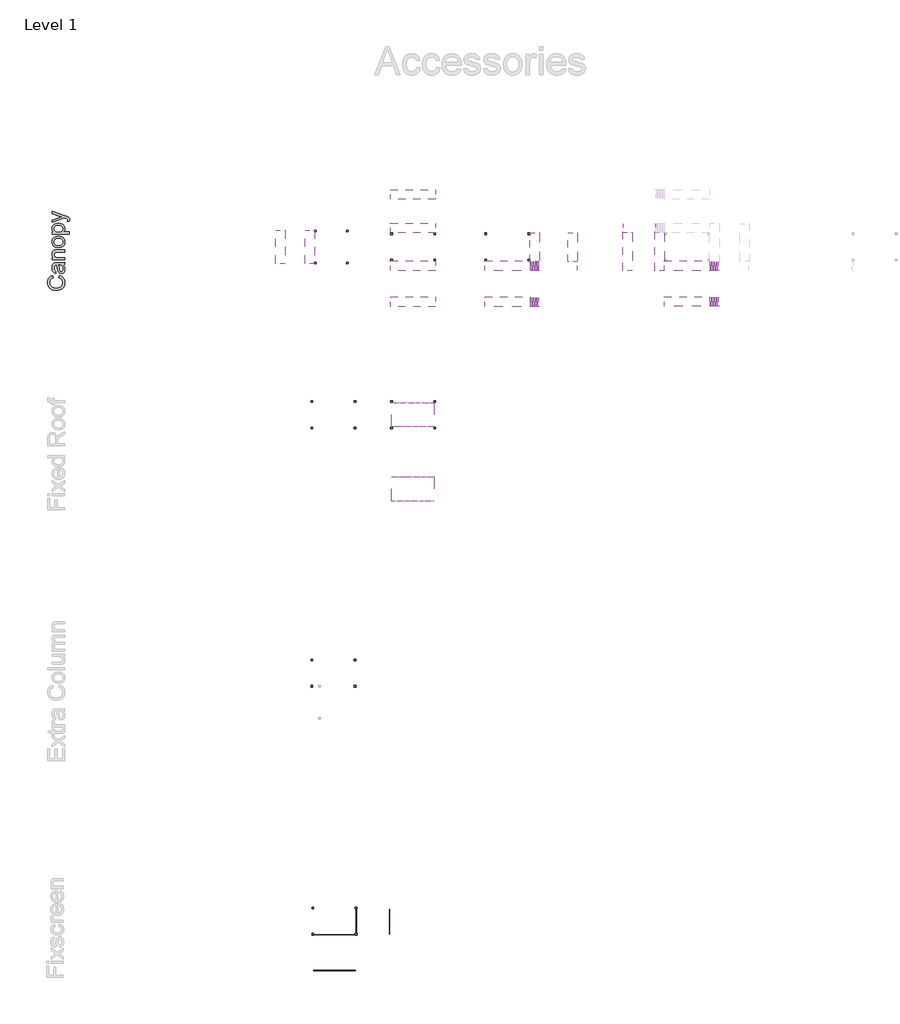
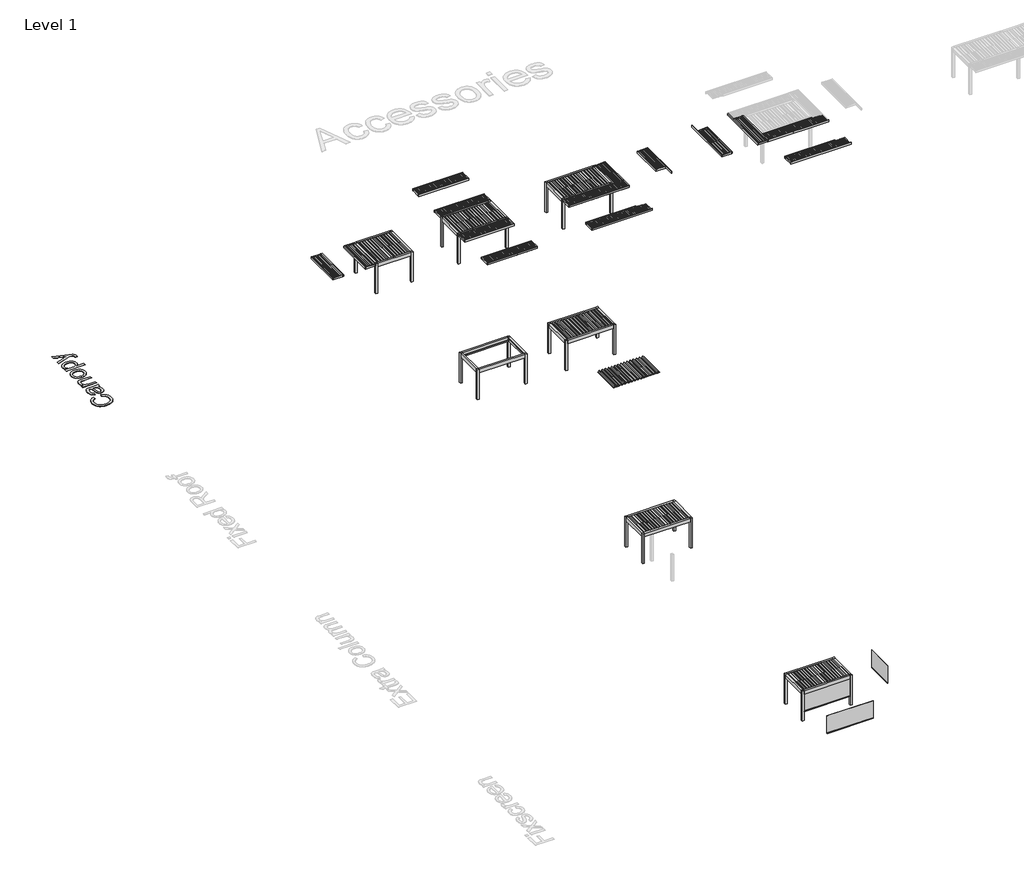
# One storey, part 79 of 80: 28 proxies.
"""IFC4 building model written with IfcOpenShell, lengths in millimetres."""

from ifc_helpers import new_model, si_unit, origin, origin_with_axes, place, context, project, spatial, polyline, outline, extrude, transform, mapped, element, save
from components import generic_models_bdaf10d6, generic_models_fbfd15e4, generic_models_e3f605ce, generic_models_1e1d77a5, generic_models_a6b09960, generic_models_b6bb1ce4, generic_models_1129b3c2, generic_models_30834988, generic_models_899c330c, generic_models_e86c0f30, generic_models_e44263f4, generic_models_869bd144, generic_models_72b72d81

model = new_model("IFC4")

# Units and contexts
model_context = context("Model", 3, world=origin())
ifc_project = project(units=[si_unit("LENGTHUNIT", "METRE", prefix="MILLI")], contexts=[model_context])

# Site, building, storey
site = spatial("IfcSite", under=ifc_project)
building = spatial("IfcBuilding", under=site)
storey = spatial("IfcBuildingStorey", under=building, Name="Level 1", Elevation=0.0)

# Proxies
placement = place(None, origin())
generic_models_shape = generic_models_bdaf10d6(model_context)
element("IfcBuildingElementProxy", 1, Name="Renson_Amani_Fixed_Roof : Renson_Amani_Fixed_Roof", ObjectType="Renson_Amani_Fixed_Roof : Renson_Amani_Fixed_Roof", at=placement, inside=storey, context=model_context, shape_type="MappedRepresentation", body=[
    mapped(generic_models_shape, transform((390075.5749426, 45149.3560109, 0.0), x_axis=(1.0, 0.0, 0.0), y_axis=(0.0, 1.0, 0.0), z_axis=(0.0, 0.0, 1.0))),
])
element("IfcBuildingElementProxy", 2, Name="Renson_Amani_Fixed_Roof : Renson_Amani_Fixed_Roof", ObjectType="Renson_Amani_Fixed_Roof : Renson_Amani_Fixed_Roof", at=placement, inside=storey, context=model_context, shape_type="MappedRepresentation", body=[
    mapped(generic_models_shape, transform((390083.165057, 51749.3560109, 0.0), x_axis=(1.0, 0.0, 0.0), y_axis=(0.0, 1.0, 0.0), z_axis=(0.0, 0.0, 1.0))),
])
generic_models_2_shape = generic_models_fbfd15e4(model_context)
element("IfcBuildingElementProxy", 3, Name="Renson_Amani_Canopy : Renson_Amani_Canopy", ObjectType="Renson_Amani_Canopy : Renson_Amani_Canopy", at=placement, inside=storey, context=model_context, shape_type="MappedRepresentation", body=[
    mapped(generic_models_2_shape, transform((398383.165057, 66528.5861401, 2535.0), x_axis=(1.0, 0.0, 0.0), y_axis=(0.0, 1.0, 0.0), z_axis=(0.0, 0.0, 1.0))),
])
element("IfcBuildingElementProxy", 4, Name="Renson_Amani_Canopy : Renson_Amani_Canopy", ObjectType="Renson_Amani_Canopy : Renson_Amani_Canopy", at=placement, inside=storey, context=model_context, shape_type="MappedRepresentation", body=[
    mapped(generic_models_2_shape, transform((414390.0966626, 66528.5861401, 2535.0), x_axis=(1.0, 0.0, 0.0), y_axis=(0.0, 1.0, 0.0), z_axis=(0.0, 0.0, 1.0))),
])
element("IfcBuildingElementProxy", 5, Name="Renson_Amani_Canopy : Renson_Amani_Canopy", ObjectType="Renson_Amani_Canopy : Renson_Amani_Canopy", at=placement, inside=storey, context=model_context, shape_type="MappedRepresentation", body=[
    mapped(generic_models_2_shape, transform((398383.165057, 63328.5861401, 2535.0), x_axis=(1.0, 0.0, 0.0), y_axis=(0.0, 1.0, 0.0), z_axis=(0.0, 0.0, 1.0))),
])
element("IfcBuildingElementProxy", 6, Name="Renson_Amani_Canopy : Renson_Amani_Canopy", ObjectType="Renson_Amani_Canopy : Renson_Amani_Canopy", at=placement, inside=storey, context=model_context, shape_type="MappedRepresentation", body=[
    mapped(generic_models_2_shape, transform((414390.0966626, 63363.5861401, 2535.0), x_axis=(1.0, 0.0, 0.0), y_axis=(0.0, 1.0, 0.0), z_axis=(0.0, 0.0, 1.0))),
])
generic_models_3_shape = generic_models_e3f605ce(model_context)
element("IfcBuildingElementProxy", 7, Name="Renson_Amani_Canopy : Renson_Amani_Canopy", ObjectType="Renson_Amani_Canopy : Renson_Amani_Canopy", at=placement, inside=storey, context=model_context, shape_type="MappedRepresentation", body=[
    mapped(generic_models_3_shape, transform((402383.165057, 66458.5861401, 2535.0), x_axis=(0.0, 1.0, 0.0), y_axis=(-1.0, 0.0, 0.0), z_axis=(0.0, 0.0, 1.0))),
])
element("IfcBuildingElementProxy", 8, Name="Renson_Amani_Canopy : Renson_Amani_Canopy", ObjectType="Renson_Amani_Canopy : Renson_Amani_Canopy", at=placement, inside=storey, context=model_context, shape_type="MappedRepresentation", body=[
    mapped(generic_models_3_shape, transform((405783.165057, 66458.5861401, 2535.0), x_axis=(0.0, 1.0, 0.0), y_axis=(-1.0, 0.0, 0.0), z_axis=(0.0, 0.0, 1.0))),
])
generic_models_4_shape = generic_models_1e1d77a5(model_context)
element("IfcBuildingElementProxy", 9, Name="Renson_Amani_Canopy : Renson_Amani_Canopy", ObjectType="Renson_Amani_Canopy : Renson_Amani_Canopy", at=placement, inside=storey, context=model_context, shape_type="MappedRepresentation", body=[
    mapped(generic_models_4_shape, transform((389983.165057, 66528.5861401, 2535.0), x_axis=(1.0, 0.0, 0.0), y_axis=(0.0, 1.0, 0.0), z_axis=(0.0, 0.0, 1.0))),
])
element("IfcBuildingElementProxy", 10, Name="Renson_Amani_Canopy : Renson_Amani_Canopy", ObjectType="Renson_Amani_Canopy : Renson_Amani_Canopy", at=placement, inside=storey, context=model_context, shape_type="MappedRepresentation", body=[
    mapped(generic_models_4_shape, transform((389983.165057, 63328.5861401, 2535.0), x_axis=(1.0, 0.0, 0.0), y_axis=(0.0, 1.0, 0.0), z_axis=(0.0, 0.0, 1.0))),
])
generic_models_5_shape = generic_models_a6b09960(model_context)
element("IfcBuildingElementProxy", 11, Name="Renson_Amani_Canopy : Renson_Amani_Canopy", ObjectType="Renson_Amani_Canopy : Renson_Amani_Canopy", at=placement, inside=storey, context=model_context, shape_type="MappedRepresentation", body=[
    mapped(generic_models_5_shape, transform((389983.165057, 69028.5861401, 2535.0), x_axis=(1.0, 0.0, 0.0), y_axis=(0.0, 1.0, 0.0), z_axis=(0.0, 0.0, 1.0))),
])
element("IfcBuildingElementProxy", 12, Name="Renson_Amani_Canopy : Renson_Amani_Canopy", ObjectType="Renson_Amani_Canopy : Renson_Amani_Canopy", at=placement, inside=storey, context=model_context, shape_type="MappedRepresentation", body=[
    mapped(generic_models_5_shape, transform((389983.165057, 72028.5861401, 2535.0), x_axis=(1.0, 0.0, 0.0), y_axis=(0.0, 1.0, 0.0), z_axis=(0.0, 0.0, 1.0))),
])
generic_models_6_shape = generic_models_b6bb1ce4(model_context)
element("IfcBuildingElementProxy", 13, Name="Renson_Amani_Canopy : Renson_Amani_Canopy", ObjectType="Renson_Amani_Canopy : Renson_Amani_Canopy", at=placement, inside=storey, context=model_context, shape_type="MappedRepresentation", body=[
    mapped(generic_models_6_shape, transform((383203.165057, 66278.5861401, 2535.0), x_axis=(0.0, 1.0, 0.0), y_axis=(-1.0, 0.0, 0.0), z_axis=(0.0, 0.0, 1.0))),
])
element("IfcBuildingElementProxy", 14, Name="Renson_Amani_Canopy : Renson_Amani_Canopy", ObjectType="Renson_Amani_Canopy : Renson_Amani_Canopy", at=placement, inside=storey, context=model_context, shape_type="MappedRepresentation", body=[
    mapped(generic_models_6_shape, transform((380603.165057, 66278.5861401, 2535.0), x_axis=(0.0, 1.0, 0.0), y_axis=(-1.0, 0.0, 0.0), z_axis=(0.0, 0.0, 1.0))),
])
generic_models_7_shape = generic_models_1129b3c2(model_context)
element("IfcBuildingElementProxy", 15, Name="Renson_Amani_Canopy : Renson_Amani_Canopy", ObjectType="Renson_Amani_Canopy : Renson_Amani_Canopy", at=placement, inside=storey, context=model_context, shape_type="MappedRepresentation", body=[
    mapped(generic_models_7_shape, transform((414390.0966626, 69098.5861401, 2535.0), x_axis=(0.0, -1.0, 0.0), y_axis=(1.0, 0.0, 0.0), z_axis=(0.0, 0.0, 1.0))),
])
element("IfcBuildingElementProxy", 16, Name="Renson_Amani_Canopy : Renson_Amani_Canopy", ObjectType="Renson_Amani_Canopy : Renson_Amani_Canopy", at=placement, inside=storey, context=model_context, shape_type="MappedRepresentation", body=[
    mapped(generic_models_7_shape, transform((411510.0966626, 69098.5861401, 2535.0), x_axis=(0.0, -1.0, 0.0), y_axis=(1.0, 0.0, 0.0), z_axis=(0.0, 0.0, 1.0))),
])
generic_models_8_shape = generic_models_30834988(model_context)
element("IfcBuildingElementProxy", 17, Name="Renson_Amani_Fixscreen : Renson_Amani_Fixscreen", ObjectType="Renson_Amani_Fixscreen : Renson_Amani_Fixscreen", at=placement, inside=storey, context=model_context, shape_type="MappedRepresentation", body=[
    mapped(generic_models_8_shape, transform((386940.5749426, 7765.0525873, 0.0), x_axis=(0.0, 1.0, 0.0), y_axis=(-1.0, 0.0, 0.0), z_axis=(0.0, 0.0, 1.0))),
])
element("IfcBuildingElementProxy", 18, Name="Renson_Amani_Fixscreen : Renson_Amani_Fixscreen", ObjectType="Renson_Amani_Fixscreen : Renson_Amani_Fixscreen", at=placement, inside=storey, context=model_context, shape_type="MappedRepresentation", body=[
    mapped(generic_models_8_shape, transform((389885.5749426, 7695.0525873, 0.0), x_axis=(0.0, 1.0, 0.0), y_axis=(-1.0, 0.0, 0.0), z_axis=(0.0, 0.0, 1.0))),
])
generic_models_9_shape = generic_models_899c330c(model_context)
element("IfcBuildingElementProxy", 19, Name="Renson_Amani_Fixscreen : Renson_Amani_Fixscreen", ObjectType="Renson_Amani_Fixscreen : Renson_Amani_Fixscreen", at=placement, inside=storey, context=model_context, shape_type="MappedRepresentation", body=[
    mapped(generic_models_9_shape, transform((384975.5749426, 6550.0525873, 0.0), x_axis=(1.0, 0.0, 0.0), y_axis=(0.0, 1.0, 0.0), z_axis=(0.0, 0.0, 1.0))),
])
generic_models_10_shape = generic_models_e86c0f30(model_context)
element("IfcBuildingElementProxy", 20, Name="Renson_Amani_Fixscreen : Renson_Amani_Fixscreen", ObjectType="Renson_Amani_Fixscreen : Renson_Amani_Fixscreen", at=placement, inside=storey, context=model_context, shape_type="MappedRepresentation", body=[
    mapped(generic_models_10_shape, transform((384990.5749426, 3366.9887613, 0.0), x_axis=(1.0, 0.0, 0.0), y_axis=(0.0, 1.0, 0.0), z_axis=(0.0, 0.0, 1.0))),
])
generic_models_11_shape = generic_models_e44263f4(model_context)
element("IfcBuildingElementProxy", 21, Name="Renson_Amani_Patio_Cover : Renson_Amani_Patio_Cover", ObjectType="Renson_Amani_Patio_Cover : Renson_Amani_Patio_Cover", at=placement, inside=storey, context=model_context, shape_type="MappedRepresentation", body=[
    mapped(generic_models_11_shape, transform((384975.5749426, 7765.0525873, 0.0), x_axis=(1.0, 0.0, 0.0), y_axis=(0.0, 1.0, 0.0), z_axis=(0.0, 0.0, 1.0))),
])
element("IfcBuildingElementProxy", 22, Name="Renson_Amani_Patio_Cover : Renson_Amani_Patio_Cover", ObjectType="Renson_Amani_Patio_Cover : Renson_Amani_Patio_Cover", at=placement, inside=storey, context=model_context, shape_type="MappedRepresentation", body=[
    mapped(generic_models_11_shape, transform((391983.165057, 67778.5861401, 0.0), x_axis=(1.0, 0.0, 0.0), y_axis=(0.0, 1.0, 0.0), z_axis=(0.0, 0.0, 1.0))),
])
element("IfcBuildingElementProxy", 23, Name="Renson_Amani_Patio_Cover : Renson_Amani_Patio_Cover", ObjectType="Renson_Amani_Patio_Cover : Renson_Amani_Patio_Cover", at=placement, inside=storey, context=model_context, shape_type="MappedRepresentation", body=[
    mapped(generic_models_11_shape, transform((400383.165057, 67778.5861401, 0.0), x_axis=(1.0, 0.0, 0.0), y_axis=(0.0, 1.0, 0.0), z_axis=(0.0, 0.0, 1.0))),
])
element("IfcBuildingElementProxy", 24, Name="Renson_Amani_Patio_Cover : Renson_Amani_Patio_Cover", ObjectType="Renson_Amani_Patio_Cover : Renson_Amani_Patio_Cover", at=placement, inside=storey, context=model_context, shape_type="MappedRepresentation", body=[
    mapped(generic_models_11_shape, transform((384883.165057, 29838.5861401, 0.0), x_axis=(1.0, 0.0, 0.0), y_axis=(0.0, 1.0, 0.0), z_axis=(0.0, 0.0, 1.0))),
])
generic_models_12_shape = generic_models_869bd144(model_context)
element("IfcBuildingElementProxy", 25, Name="Renson_Amani_Patio_Cover : Renson_Amani_Patio_Cover", ObjectType="Renson_Amani_Patio_Cover : Renson_Amani_Patio_Cover", at=placement, inside=storey, context=model_context, shape_type="MappedRepresentation", body=[
    mapped(generic_models_12_shape, transform((391983.165057, 52838.5861401, 0.0), x_axis=(1.0, 0.0, 0.0), y_axis=(0.0, 1.0, 0.0), z_axis=(0.0, 0.0, 1.0))),
])
element("IfcBuildingElementProxy", 26, Name="Renson_Amani_Patio_Cover : Renson_Amani_Patio_Cover", ObjectType="Renson_Amani_Patio_Cover : Renson_Amani_Patio_Cover", at=placement, inside=storey, context=model_context, shape_type="MappedRepresentation", body=[
    mapped(generic_models_12_shape, transform((384883.165057, 52838.5861401, 0.0), x_axis=(1.0, 0.0, 0.0), y_axis=(0.0, 1.0, 0.0), z_axis=(0.0, 0.0, 1.0))),
])
generic_models_13_shape = generic_models_72b72d81(model_context)
element("IfcBuildingElementProxy", 27, Name="Renson_Amani_Patio_Cover : Renson_Amani_Patio_Cover", ObjectType="Renson_Amani_Patio_Cover : Renson_Amani_Patio_Cover", at=placement, inside=storey, context=model_context, shape_type="MappedRepresentation", body=[
    mapped(generic_models_13_shape, transform((384703.165057, 67778.5861401, 0.0), x_axis=(1.0, 0.0, 0.0), y_axis=(0.0, 1.0, 0.0), z_axis=(0.0, 0.0, 1.0))),
])
element("IfcBuildingElementProxy", 28, Name="1500mm", ObjectType="1500mm", at=placement, inside=storey, context=model_context, shape_type="SweptSolid", body=[
    extrude(outline(polyline([(360410.2270777, 65043.7823371), (360458.7875011, 65232.1379186), (360519.2034966, 65215.0486503), (360575.9234276, 65194.866874), (360628.9472943, 65171.5925896), (360678.2750965, 65145.2257972), (360723.9068343, 65115.7664968), (360765.8425076, 65083.2146884), (360804.0821166, 65047.570372), (360838.6256611, 65008.8335475), (360869.2777039, 64967.4238304), (360895.8428077, 64923.7608361), (360918.3209724, 64877.8445646), (360936.7121981, 64829.6750159), (360951.0164847, 64779.2521899), (360961.2338323, 64726.5760867), (360967.3642409, 64671.6467063), (360969.4077104, 64614.4640487), (360967.8614564, 64555.6287962), (360963.2226944, 64499.604392), (360955.4914243, 64446.3908362), (360944.6676462, 64395.9881288), (360930.7513601, 64348.3962698), (360913.742566, 64303.6152591), (360893.6412639, 64261.6450968), (360870.4474537, 64222.4857828), (360844.3220839, 64185.8585317), (360815.4261028, 64151.4845578), (360783.7595104, 64119.3638611), (360749.3223068, 64089.4964416), (360712.1144919, 64061.8822993), (360672.1360657, 64036.5214343), (360629.3870282, 64013.4138465), (360583.8673795, 63992.5595359), (360488.3330238, 63958.0361099), (360389.3497745, 63933.3765199), (360286.9176315, 63918.5807659), (360181.0365947, 63913.6488479), (360067.4300361, 63919.2245594), (359961.3190731, 63935.9516938), (359911.07444, 63948.4970447), (359862.7037058, 63963.8302513), (359816.2068705, 63981.9513136), (359771.5839341, 64002.8602317), (359729.2114009, 64026.3385756), (359689.465775, 64052.1679154), (359652.3470565, 64080.348251), (359617.8552454, 64110.8795826), (359585.9903416, 64143.7619099), (359556.7523452, 64178.9952332), (359530.1412562, 64216.5795524), (359506.1570746, 64256.5148674), (359466.4833007, 64340.8058295), (359438.1448907, 64429.2354641), (359421.1418448, 64521.8037712), (359415.4741628, 64618.5107506), (359417.3078246, 64673.4947385), (359422.8088101, 64726.2426937), (359431.9771192, 64776.7546161), (359444.8127519, 64825.0305057), (359461.3157083, 64871.0703626), (359481.4859883, 64914.8741867), (359505.3235919, 64956.4419781), (359532.8285192, 64995.7737367), (359563.661629, 65032.5360695), (359597.4837799, 65066.3955835), (359634.294972, 65097.3522785), (359674.0952054, 65125.4061547), (359716.8844799, 65150.5572121), (359762.6627957, 65172.8054506), (359811.4301527, 65192.1508702), (359863.1865509, 65208.5934709), (359908.0681543, 65020.2378894), (359833.9974139, 64990.5774035), (359770.7102144, 64954.9388352), (359718.2065559, 64913.3221845), (359676.4864384, 64865.7274514), (359644.6991347, 64811.8787244), (359621.9939178, 64751.5000919), (359608.3707877, 64684.591554), (359603.8297443, 64611.1531107), (359608.8651291, 64526.655215), (359623.9712835, 64449.3770034), (359649.1482076, 64379.3184759), (359684.3959012, 64316.4796326), (359728.1278734, 64261.653719), (359778.757633, 64215.6339807), (359836.28518, 64178.4204176), (359900.7105144, 64150.0130298), (359969.1135729, 64129.0092671), (360038.5742921, 64114.0065795), (360109.0926721, 64105.0049669), (360180.6687127, 64102.0044294), (360270.6158606, 64105.5567899), (360354.6768965, 64116.2138715), (360432.8518204, 64133.9756741), (360505.1406325, 64158.8421977), (360570.1062936, 64191.2158132), (360626.3117647, 64231.4988917), (360673.7570457, 64279.6914331), (360712.4421368, 64335.7934374), (360742.4590083, 64397.0802785), (360763.8996308, 64460.8273305), (360776.7640044, 64527.0345933), (360781.0521289, 64595.7020669), (360775.2120022, 64677.5902998), (360767.9118439, 64716.0770795), (360757.6916222, 64752.9256346), (360744.5513372, 64788.1359653), (360728.4909888, 64821.7080714), (360709.5105771, 64853.641953), (360687.6101021, 64883.9376102), (360662.835549, 64912.2271608), (360635.232903, 64938.1427229), (360604.8021642, 64961.6842965), (360571.5433326, 64982.8518816), (360535.4564082, 65001.6454782), (360496.5413909, 65018.0650863), (360410.2270777, 65043.7823371)])), origin_with_axes(), (0.0, 0.0, 1.0), 5.0),
    extrude(outline(polyline([(360804.5965766, 66173.9158263), (360846.5121314, 66129.2526528), (360881.7598251, 66083.9226932), (360910.3396576, 66037.9259475), (360932.2516289, 65991.2624156), (360948.5074146, 65943.4032673), (360960.11869, 65893.8196722), (360967.0854553, 65842.5116302), (360969.4077104, 65789.4791413), (360963.8205026, 65705.6135427), (360956.8364928, 65667.5521266), (360947.0588792, 65632.0716326), (360934.4876616, 65599.1720607), (360919.1228402, 65568.853411), (360900.9644148, 65541.1156834), (360880.0123856, 65515.9588779), (360856.8875533, 65493.58418), (360832.2107188, 65474.1927751), (360805.9818822, 65457.7846633), (360778.2010434, 65444.3598446), (360748.8682025, 65433.9183189), (360717.9833593, 65426.4600862), (360651.5576666, 65420.4935001), (360611.6194775, 65422.7467774), (360573.4747131, 65429.506609), (360537.1233734, 65440.7729951), (360502.5654585, 65456.5459357), (360470.5597249, 65475.9861998), (360441.8649293, 65498.2545569), (360416.4810717, 65523.3510067), (360394.4081519, 65551.2755494), (360358.5396574, 65613.5855623), (360332.6039768, 65683.1612447), (360318.1646084, 65750.9435023), (360304.2770631, 65846.1329686), (360290.0216358, 65949.7377354), (360274.4786215, 66038.719193), (360257.6480202, 66113.0773413), (360239.529832, 66172.8121803), (360197.5912845, 66173.9158263), (360151.9279319, 66170.6738662), (360113.5302486, 66160.9479859), (360082.3982348, 66144.7381855), (360058.5318903, 66122.0444649), (360034.7115312, 66082.8190472), (360017.6969889, 66035.0403731), (360007.4882635, 65978.7084426), (360004.0853551, 65913.8232557), (360006.3501286, 65853.4906085), (360013.1444492, 65801.6192471), (360024.4683169, 65758.2091717), (360040.3217316, 65723.2603822), (360061.9462951, 65694.5425939), (360090.5836092, 65669.8255224), (360126.2336738, 65649.1091675), (360168.8964889, 65632.3935294), (360145.3520412, 65444.0379478), (360091.0894469, 65458.3738493), (360042.3450826, 65476.7334601), (359999.1189481, 65499.1167803), (359961.4110436, 65525.5238098), (359928.4626124, 65557.0926835), (359899.5148979, 65594.9615363), (359874.5679001, 65639.1303684), (359853.621619, 65689.5991796), (359837.0439366, 65745.3447982), (359825.2027349, 65805.3440523), (359818.0980139, 65869.5969421), (359815.7297735, 65938.1034673), (359817.8221024, 66005.0694868), (359824.0990889, 66065.4366229), (359834.5607332, 66119.2048758), (359849.2070351, 66166.3742454), (359867.0148229, 66207.3356063), (359886.9609248, 66242.4798331), (359909.0453409, 66271.8069259), (359933.268071, 66295.3168847), (359960.2269234, 66314.3777705), (359990.5197065, 66330.3576447), (360024.1464201, 66343.2565072), (360061.1070643, 66353.0743579), (360126.2221775, 66359.9721453), (360225.9181982, 66362.2714078), (360460.2590291, 66362.2714078), (360664.3875512, 66364.6626408), (360787.4900638, 66371.8363397), (360868.3781175, 66385.9997965), (360945.8632627, 66409.3603032), (360945.8632627, 66221.0047216), (360914.4093521, 66204.2660909), (360880.3802676, 66190.838398), (360843.776009, 66180.7216432), (360804.5965766, 66173.9158263)]), holes=[polyline([(360427.8854135, 66173.9158263), (360444.1871844, 66116.9860875), (360459.2473536, 66047.3644199), (360485.6428867, 65870.0452982), (360500.0822551, 65772.3266433), (360516.1770923, 65707.9932794), (360537.0543956, 65665.8248057), (360550.4590958, 65648.8447523), (360565.8411617, 65634.6008213), (360582.6487703, 65623.3344352), (360600.3300987, 65615.2870166), (360618.8851469, 65610.4585654), (360638.3139147, 65608.8490817), (360667.583526, 65612.3554569), (360694.3239485, 65622.8745827), (360718.5351823, 65640.4064591), (360740.2172274, 65664.9510859), (360758.0824968, 65696.2785371), (360770.8434035, 65734.1588863), (360778.4999475, 65778.5921335), (360781.0521289, 65829.5782788), (360778.2355323, 65881.6335811), (360769.7857428, 65930.7458274), (360755.7027601, 65976.9150178), (360735.9865845, 66020.1411523), (360712.2696921, 66059.1366438), (360686.1845594, 66092.6139053), (360657.7311863, 66120.572937), (360626.9095729, 66143.0137387), (360599.3184233, 66156.0505569), (360565.8411617, 66165.3625699), (360526.4777882, 66170.9497777), (360481.2283028, 66172.8121803), (360427.8854135, 66173.9158263)])]), origin_with_axes(), (0.0, 0.0, 1.0), 5.0),
    extrude(outline(polyline([(360945.8632627, 66621.2603324), (359839.2742212, 66621.2603324), (359839.2742212, 66809.6159139), (359993.7846592, 66809.6159139), (359952.0530454, 66840.6904462), (359915.8856467, 66875.0529238), (359885.2824632, 66912.7033468), (359860.2434949, 66953.641715), (359840.7687418, 66997.8680286), (359826.8582039, 67045.3822876), (359818.5118811, 67096.1844918), (359815.7297735, 67150.2746415), (359817.9715544, 67197.6739373), (359824.6968972, 67243.11886), (359835.9058017, 67286.6094096), (359851.5982681, 67328.1455861), (359870.9350654, 67366.1523947), (359893.076963, 67399.0548407), (359918.0239608, 67426.852924), (359945.7760588, 67449.5466445), (359976.2987681, 67468.1821668), (360009.5575997, 67483.8056553), (360045.5525537, 67496.41711), (360084.28363, 67506.0165308), (360155.7447076, 67513.4661412), (360266.3852176, 67515.9493447), (360945.8632627, 67515.9493447), (360945.8632627, 67327.5937631), (360291.7690753, 67327.5937631), (360194.3723171, 67322.1675037), (360156.2275527, 67315.3846794), (360125.1185315, 67305.8887254), (360098.9184356, 67292.955374), (360075.5004474, 67275.8603576), (360054.8645667, 67254.603676), (360037.0107936, 67229.1853294), (360022.6059143, 67200.4790375), (360012.3167147, 67169.35852), (360006.143195, 67135.8237768), (360004.0853551, 67099.8748081), (360008.7068726, 67042.6806542), (360022.5714253, 66989.5561948), (360045.6790131, 66940.50143), (360078.0296361, 66895.5163598), (360098.5907907, 66875.3834428), (360123.3021141, 66857.9349147), (360152.1636063, 66843.1707756), (360185.1752672, 66831.0910254), (360222.3370969, 66821.6956641), (360263.6490953, 66814.9846918), (360358.7235984, 66809.6159139), (360945.8632627, 66809.6159139), (360945.8632627, 66621.2603324)])), origin_with_axes(), (0.0, 0.0, 1.0), 5.0),
    extrude(outline(polyline([(360392.568742, 67727.8493739), (360318.4347718, 67730.3958071), (360249.2557122, 67738.0351066), (360185.0315633, 67750.7672725), (360125.762325, 67768.5923048), (360071.4479973, 67791.5102035), (360022.0885802, 67819.5209686), (359977.6840737, 67852.6246), (359938.2344779, 67890.8210977), (359909.5224378, 67925.7813836), (359884.6386697, 67962.6040721), (359863.5831737, 68001.2891631), (359846.3559496, 68041.8366568), (359832.9569976, 68084.246553), (359823.3863176, 68128.5188519), (359817.6439095, 68174.6535533), (359815.7297735, 68222.6506574), (359818.0606509, 68275.8527169), (359825.0532828, 68326.5658247), (359836.7076695, 68374.7899809), (359853.0238108, 68420.5251855), (359874.0017067, 68463.7714385), (359899.6413574, 68504.5287399), (359929.9427626, 68542.7970896), (359964.9059226, 68578.5764877), (360003.9790142, 68610.9529774), (360046.6102144, 68639.0126017), (360092.7995234, 68662.7553608), (360142.546941, 68682.1812546), (360195.8524673, 68697.2902831), (360252.7161022, 68708.0824463), (360313.1378459, 68714.5577443), (360377.1176982, 68716.7161769), (360477.9403575, 68712.8994012), (360567.4046602, 68701.4490741), (360645.5106063, 68682.3651956), (360712.2581958, 68655.6477657), (360769.9122022, 68621.6301775), (360820.7373991, 68580.6458239), (360864.7337865, 68532.6947051), (360901.9013643, 68477.776821), (360931.4353907, 68418.0304858), (360952.5311239, 68355.5940134), (360965.1885638, 68290.4674039), (360969.4077104, 68222.6506574), (360967.0854553, 68168.6093671), (360960.11869, 68117.2179768), (360948.5074146, 68068.4764866), (360932.2516289, 68022.3848963), (360911.351333, 67978.943206), (360885.806527, 67938.1514157), (360855.6172108, 67900.0095254), (360820.7833844, 67864.5175351), (360781.5809592, 67832.4859348), (360738.2858469, 67804.7252146), (360690.8980474, 67781.2353744), (360639.4175607, 67762.0164142), (360583.8443868, 67747.068334), (360524.1785257, 67736.391134), (360460.4199775, 67729.9848139), (360392.568742, 67727.8493739)]), holes=[polyline([(360392.20086, 67916.2049554), (360483.5620542, 67921.6542075), (360524.6470005, 67928.4657725), (360562.6681795, 67938.0019636), (360597.6255913, 67950.2627807), (360629.5192358, 67965.2482239), (360658.3491131, 67982.9582931), (360684.1152231, 68003.3929883), (360706.8348104, 68025.8912715), (360726.5251194, 68049.7921049), (360743.1861501, 68075.0954884), (360756.8179024, 68101.801422), (360767.4203765, 68129.9099057), (360774.9935723, 68159.4209395), (360781.0521289, 68222.6506574), (360774.9590833, 68285.5584786), (360767.3427764, 68314.9430529), (360756.6799467, 68342.9480698), (360742.9705942, 68369.5735292), (360726.214719, 68394.8194311), (360706.4123209, 68418.6857756), (360683.5634001, 68441.1725625), (360657.5932306, 68461.6072577), (360628.4270861, 68479.3173269), (360596.0649669, 68494.30277), (360560.5068728, 68506.5635872), (360521.7528038, 68516.0997783), (360479.8027601, 68522.9113433), (360386.314748, 68528.3605954), (360297.8506245, 68522.8768544), (360257.9038132, 68516.0221782), (360220.8138355, 68506.4256314), (360186.5806914, 68494.0872142), (360155.2043809, 68479.0069265), (360126.684904, 68461.1847682), (360101.0222608, 68440.6207395), (360058.6123645, 68394.0951635), (360041.9513339, 68368.8406393), (360028.3195815, 68342.2582911), (360017.7171074, 68314.3481188), (360010.1439117, 68285.1101224), (360004.0853551, 68222.6506574), (360010.120919, 68159.4209395), (360017.665374, 68129.9099057), (360028.227611, 68101.801422), (360041.80763, 68075.0954884), (360058.4054309, 68049.7921049), (360078.0210139, 68025.8912715), (360100.6543788, 68003.3929883), (360126.3342665, 67982.9582931), (360155.0894178, 67965.2482239), (360186.9198326, 67950.2627807), (360221.825511, 67938.0019636), (360259.8064529, 67928.4657725), (360300.8626584, 67921.6542075), (360392.20086, 67916.2049554)])]), origin_with_axes(), (0.0, 0.0, 1.0), 5.0),
    extrude(outline(polyline([(361369.6633212, 68928.6162061), (359839.2742212, 68928.6162061), (359839.2742212, 69116.9717877), (360023.9509828, 69116.9717877), (359975.1491369, 69146.7702293), (359932.8542037, 69178.4080809), (359897.0661834, 69211.8853424), (359867.7850758, 69247.202014), (359845.0108811, 69285.369771), (359828.7435991, 69327.4002889), (359818.9832299, 69373.2935678), (359815.7297735, 69423.0496077), (359820.2823132, 69488.7395364), (359833.9399323, 69550.4287485), (359856.7026307, 69608.1172439), (359888.5704086, 69661.8050225), (359928.7155313, 69710.3194606), (359976.3102644, 69752.4879343), (360031.354608, 69788.3104436), (360093.8485619, 69817.7869885), (360161.6538121, 69840.8026058), (360232.6320446, 69857.2423325), (360306.7832592, 69867.1061685), (360384.1074561, 69870.3941138), (360466.7774382, 69866.6808049), (360545.1937847, 69855.5408782), (360619.3564957, 69836.9743338), (360689.2655711, 69810.9811716), (360753.0930972, 69777.9177773), (360809.0111605, 69738.1405365), (360857.0197609, 69691.6494494), (360897.1188984, 69638.4445158), (360928.7452536, 69581.1353988), (360951.3355074, 69522.3317611), (360964.8896596, 69462.0336028), (360969.4077104, 69400.240924), (360966.3841803, 69355.7846841), (360957.3135898, 69313.6506993), (360942.1959391, 69273.8389697), (360921.031228, 69236.3494951), (360895.2449994, 69201.6421281), (360866.262796, 69170.1767212), (360834.0846177, 69141.9532744), (360798.7104646, 69116.9717877), (361369.6633212, 69116.9717877), (361369.6633212, 68928.6162061)]), holes=[polyline([(360401.3979098, 69116.9717877), (360492.1727922, 69122.064654), (360570.2557456, 69137.3432532), (360604.5377491, 69148.8022025), (360635.6467703, 69162.807585), (360663.5828093, 69179.3594007), (360688.3458661, 69198.4576496), (360728.9048561, 69241.3733836), (360757.8755632, 69288.6347237), (360775.2579874, 69340.2416698), (360781.0521289, 69396.194222), (360775.0510538, 69452.9515161), (360767.54971, 69479.7522942), (360757.0478287, 69505.5011598), (360727.0424535, 69553.8431533), (360685.0349281, 69597.9774964), (360659.3809071, 69617.6793016), (360630.4274445, 69634.7541996), (360598.1745402, 69649.2021901), (360562.6221942, 69661.0232733), (360523.7704067, 69670.2174491), (360481.6191774, 69676.7847175), (360387.418394, 69682.0385323), (360297.425261, 69676.911177), (360219.4802632, 69661.529111), (360185.0258151, 69649.9925616), (360153.5834008, 69635.8923345), (360125.1530204, 69619.2284297), (360099.7346738, 69600.0008473), (360057.8880969, 69556.9816465), (360027.9976847, 69509.961729), (360010.0634375, 69458.9410948), (360004.0853551, 69403.9197439), (360005.6747202, 69376.0900458), (360010.4428158, 69349.0708377), (360018.3896417, 69322.8621196), (360029.515198, 69297.4638916), (360061.3025016, 69249.0989055), (360105.8047267, 69203.9758795), (360132.6744828, 69183.5842955), (360162.424065, 69165.9115893), (360195.0534736, 69150.957761), (360230.5627083, 69138.7228106), (360268.9517694, 69129.2067381), (360310.2206566, 69122.4095434), (360401.3979098, 69116.9717877)])]), origin_with_axes(), (0.0, 0.0, 1.0), 5.0),
    extrude(outline(polyline([(361369.6633212, 70082.294143), (361188.2974975, 70058.7496953), (361200.7135149, 70110.0692336), (361204.8521873, 70154.3990141), (361199.6558541, 70204.7068769), (361193.1604377, 70225.653158), (361184.0668546, 70243.7943389), (361159.1888347, 70274.236574), (361126.1254403, 70298.6087562), (361077.4730465, 70319.3940889), (360987.4339282, 70350.1122355), (360941.8165608, 70364.8275153), (359839.2742212, 69964.5719046), (359839.2742212, 70163.228182), (360453.6371532, 70375.4960932), (360573.5666836, 70414.5835552), (360699.3823259, 70449.4403742), (360482.3319488, 70523.3846552), (359839.2742212, 70741.5386784), (359839.2742212, 70938.7234278), (360972.3507664, 70553.5509788), (361122.9984434, 70496.3453286), (361218.0959391, 70453.4870761), (361260.3333907, 70428.7240193), (361296.5467746, 70402.2595083), (361326.7360908, 70374.0935431), (361350.9013394, 70344.2261236), (361369.4104023, 70312.0134564), (361382.6311615, 70276.811748), (361390.563617, 70238.6209983), (361393.2077688, 70197.4412075), (361387.3216569, 70142.9027017), (361369.6633212, 70082.294143)])), origin_with_axes(), (0.0, 0.0, 1.0), 5.0),
])

save(model, "model.ifc")
